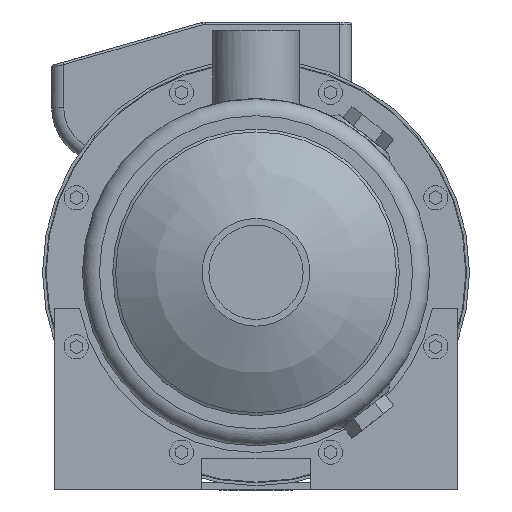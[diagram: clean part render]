
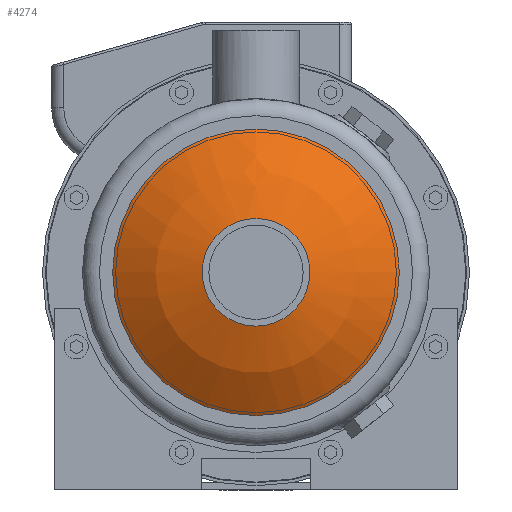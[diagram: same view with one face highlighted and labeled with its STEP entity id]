
A CAD part, left-side view. The second image highlights one B-rep face of the part: STEP entity #4274.
In plain terms, the highlighted spherical face has radius 100 mm.
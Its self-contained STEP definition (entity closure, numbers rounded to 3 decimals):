
#57=SPHERICAL_SURFACE('',#5675,100.);
#969=ORIENTED_EDGE('',*,*,#2136,.T.);
#970=ORIENTED_EDGE('',*,*,#2135,.F.);
#2135=EDGE_CURVE('',#2723,#2723,#3123,.T.);
#2136=EDGE_CURVE('',#2724,#2724,#3124,.T.);
#2723=VERTEX_POINT('',#7616);
#2724=VERTEX_POINT('',#7619);
#3123=CIRCLE('',#5674,22.25);
#3124=CIRCLE('',#5676,59.25);
#3330=EDGE_LOOP('',(#969));
#3331=EDGE_LOOP('',(#970));
#3725=FACE_BOUND('',#3330,.T.);
#3726=FACE_BOUND('',#3331,.T.);
#4274=ADVANCED_FACE('',(#3725,#3726),#57,.T.);
#5674=AXIS2_PLACEMENT_3D('',#7615,#6207,#6208);
#5675=AXIS2_PLACEMENT_3D('',#7617,#6209,#6210);
#5676=AXIS2_PLACEMENT_3D('',#7618,#6211,#6212);
#6207=DIRECTION('',(-1.,0.,0.));
#6208=DIRECTION('',(0.,0.,1.));
#6209=DIRECTION('',(-1.,0.,0.));
#6210=DIRECTION('',(0.,0.,1.));
#6211=DIRECTION('',(-1.,0.,0.));
#6212=DIRECTION('',(0.,0.,1.));
#7615=CARTESIAN_POINT('',(-67.293,0.,0.));
#7616=CARTESIAN_POINT('',(-67.293,0.,22.25));
#7617=CARTESIAN_POINT('',(30.2,0.,0.));
#7618=CARTESIAN_POINT('',(-50.357,0.,0.));
#7619=CARTESIAN_POINT('',(-50.357,0.,59.25));
